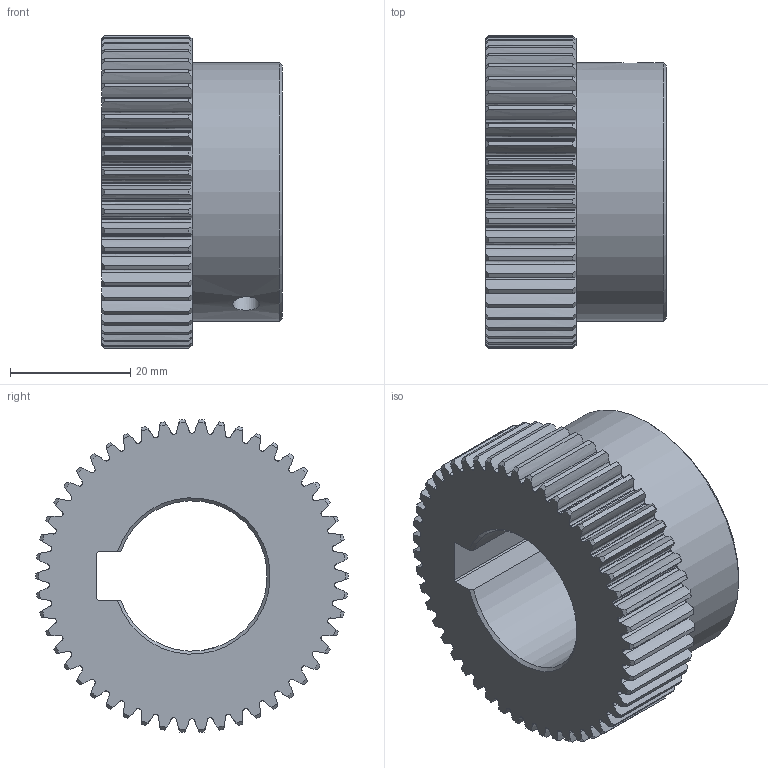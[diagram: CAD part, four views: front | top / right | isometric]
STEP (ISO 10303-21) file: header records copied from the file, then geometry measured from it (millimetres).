
FILE_DESCRIPTION(('STEP AP214'), '1');
FILE_NAME('GS1-T50D25 - Øåñòåðíÿ', '2018-06-14T06:48:08', (''), (''), 'ASCON STEP Converter 1.3', 'ASCON Math Kernel', '');
FILE_SCHEMA(('AUTOMOTIVE_DESIGN { 1 0 10303 214 3 1 1}'));
Length unit declared in the file: millimetre
Products named in the file (1): GS1-T50D25
Bounding box: 30 x 52 x 51.94 mm (x, y, z)
Volume: 35255.7 mm3; surface area: 12092.2 mm2
Topology: 1 solids, 1 shells, 415 faces, 1237 edges, 827 vertices
Faces by surface type: extrusion 200, cylinder 106, cone 103, plane 6
Full cylindrical faces by diameter (mm): 4.134 x1, 4.458 x1, 43 x1
Entity records: 21867 total; most frequent: CARTESIAN_POINT 8051, ORIENTED_EDGE 2462, DIRECTION 1568, EDGE_CURVE 1231, VERTEX_POINT 823, B_SPLINE_CURVE_WITH_KNOTS 807, AXIS2_PLACEMENT_3D 528, VECTOR 512
